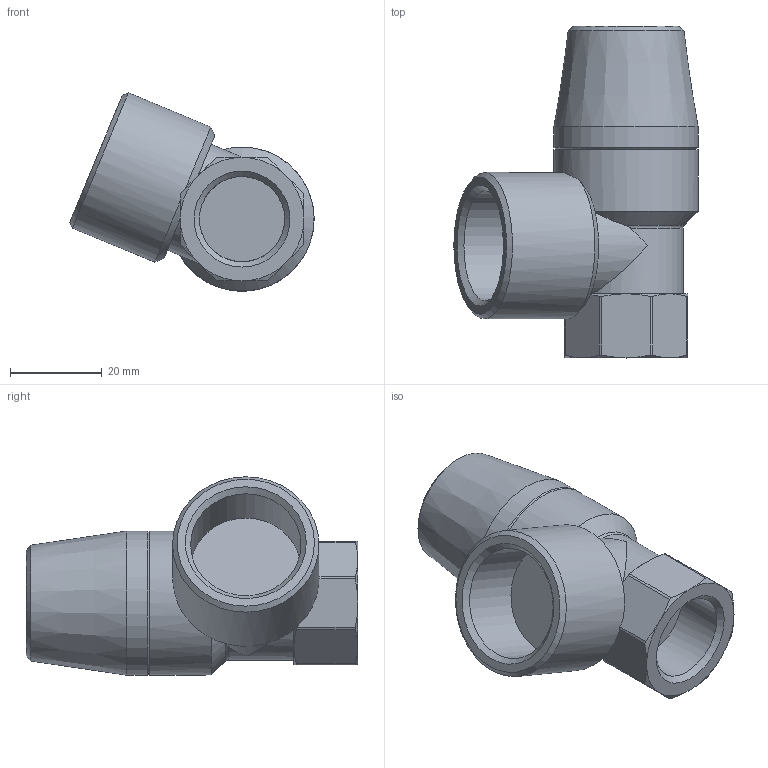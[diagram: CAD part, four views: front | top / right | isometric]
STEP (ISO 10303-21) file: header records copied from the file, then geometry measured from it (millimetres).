
FILE_DESCRIPTION((''),'2;1');
FILE_NAME('C:\Users\duckj\Desktop\10004655.stp','2017-09-07T14:47:10',('duckj'),(''),'Autodesk Inventor 2013','Autodesk Inventor 2013','');
FILE_SCHEMA(('CONFIG_CONTROL_DESIGN'));
Length unit declared in the file: millimetre
Products named in the file (1): 07092017_006
Bounding box: 53.36 x 72.5 x 43.35 mm (x, y, z)
Volume: 53626 mm3; surface area: 12128.9 mm2
Topology: 1 solids, 1 shells, 58 faces, 143 edges, 90 vertices
Faces by surface type: cone 24, plane 17, cylinder 16, torus 1
Full cylindrical faces by diameter (mm): 18.63 x1, 24.117 x1, 31.5 x2, 32 x1
Entity records: 1749 total; most frequent: CARTESIAN_POINT 399, DIRECTION 268, ORIENTED_EDGE 256, EDGE_CURVE 128, AXIS2_PLACEMENT_3D 123, VERTEX_POINT 86, EDGE_LOOP 72, STYLED_ITEM 59
